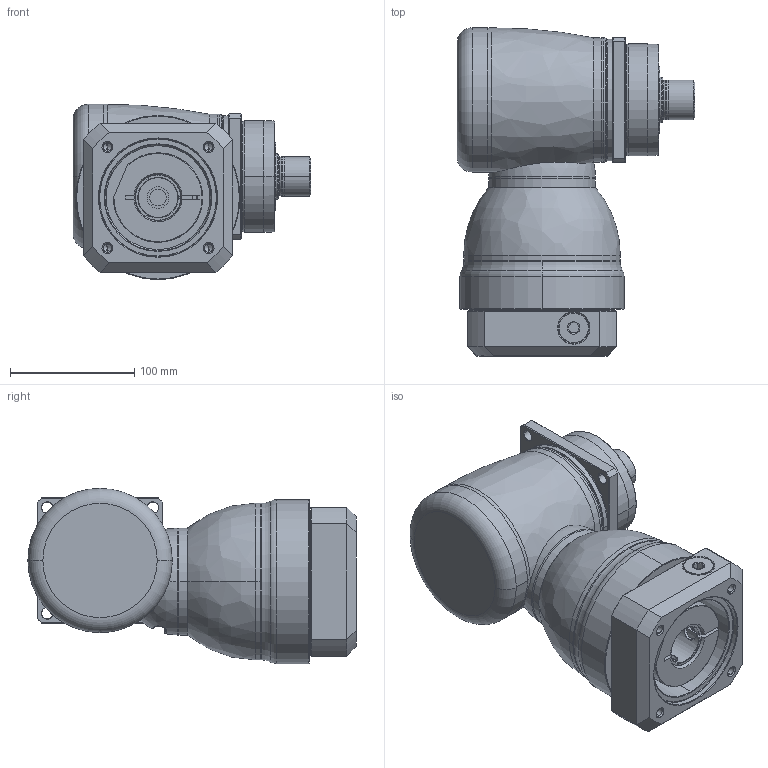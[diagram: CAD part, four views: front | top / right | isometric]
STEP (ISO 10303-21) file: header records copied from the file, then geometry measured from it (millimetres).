
FILE_DESCRIPTION((''),'2;1');
FILE_NAME('KF100_S3_1ST_32-P0409700101_ASM','2016-07-01T',('d01943'),(''),'PRO/ENGINEER BY PARAMETRIC TECHNOLOGY CORPORATION, 2008410','PRO/ENGINEER BY PARAMETRIC TECHNOLOGY CORPORATION, 2008410','');
FILE_SCHEMA(('CONFIG_CONTROL_DESIGN'));
Length unit declared in the file: millimetre
Products named in the file (11): P1008400002; P1804400001; P0915402001; P1315400001; P1007400001; P1318400301; P0409700101; P0503700010; P0912403001; 21711418017; KF100_S3_1ST_32-P0409700101_ASM
Assembly tree (10 placements, depth 2):
  KF100_S3_1ST_32-P0409700101_ASM
    P1008400002
    P1804400001
    P0915402001
    P1315400001
    P1007400001
    P1318400301
    P0409700101
    P0503700010
    P0912403001
    21711418017
Bounding box: 191.3 x 264 x 141 mm (x, y, z)
Volume: 2903568 mm3; surface area: 332108.8 mm2
Topology: 11 solids, 11 shells, 472 faces, 1048 edges, 617 vertices
Faces by surface type: cylinder 152, cone 124, plane 98, torus 62, bspline 34, sphere 2
Entity records: 18822 total; most frequent: CARTESIAN_POINT 8238, DIRECTION 2314, ORIENTED_EDGE 2056, EDGE_CURVE 1028, AXIS2_PLACEMENT_3D 981, VERTEX_POINT 617, EDGE_LOOP 535, CIRCLE 522
